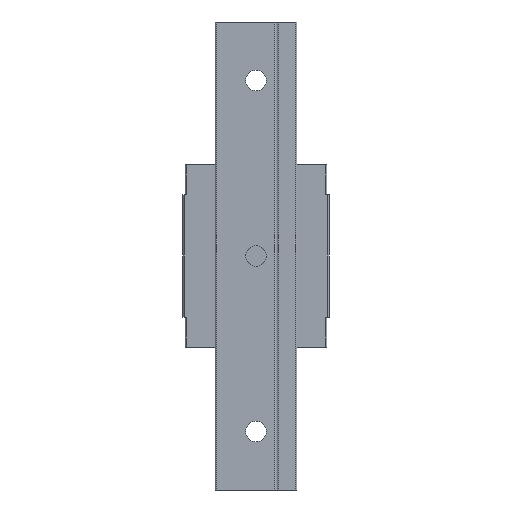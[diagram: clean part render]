
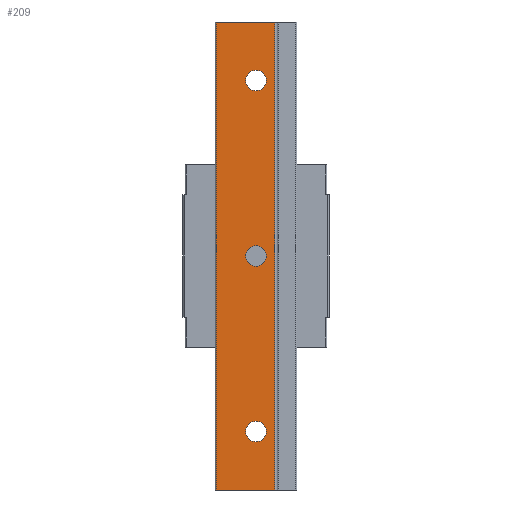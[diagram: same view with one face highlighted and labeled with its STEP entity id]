
A CAD part, front view. The second image highlights one B-rep face of the part: STEP entity #209.
In plain terms, the highlighted planar face has unit normal (0, -1, 0).
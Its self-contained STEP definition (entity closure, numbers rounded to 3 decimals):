
#26 = VERTEX_POINT ( 'NONE', #2491 ) ;
#63 = DIRECTION ( 'NONE',  ( 0., -1., 0. ) ) ;
#66 = DIRECTION ( 'NONE',  ( 0., 0., -1. ) ) ;
#106 = PLANE ( 'NONE',  #2392 ) ;
#139 = EDGE_CURVE ( 'NONE', #3542, #342, #4461, .T. ) ;
#209 = ADVANCED_FACE ( 'NONE', ( #1805, #403, #3886, #1785 ), #106, .F. ) ;
#254 = CARTESIAN_POINT ( 'NONE',  ( 3.2, 0., 40. ) ) ;
#272 = CARTESIAN_POINT ( 'NONE',  ( -6.8, 0., -40. ) ) ;
#299 = ORIENTED_EDGE ( 'NONE', *, *, #2235, .F. ) ;
#300 = CARTESIAN_POINT ( 'NONE',  ( 3.2, 0., -40. ) ) ;
#326 = CARTESIAN_POINT ( 'NONE',  ( -6.8, 0., 40. ) ) ;
#342 = VERTEX_POINT ( 'NONE', #300 ) ;
#349 = CARTESIAN_POINT ( 'NONE',  ( 0., 0., 30. ) ) ;
#397 = DIRECTION ( 'NONE',  ( -1., 0., 0. ) ) ;
#403 = FACE_BOUND ( 'NONE', #2926, .T. ) ;
#443 = CARTESIAN_POINT ( 'NONE',  ( 3.5, 0., -40. ) ) ;
#456 = AXIS2_PLACEMENT_3D ( 'NONE', #349, #1059, #2190 ) ;
#576 = VERTEX_POINT ( 'NONE', #272 ) ;
#688 = CIRCLE ( 'NONE', #2989, 1.75 ) ;
#779 = DIRECTION ( 'NONE',  ( 0., -1., 0. ) ) ;
#843 = EDGE_LOOP ( 'NONE', ( #3930, #1016, #1893, #2213 ) ) ;
#873 = EDGE_CURVE ( 'NONE', #1219, #2899, #3892, .T. ) ;
#1016 = ORIENTED_EDGE ( 'NONE', *, *, #2685, .F. ) ;
#1059 = DIRECTION ( 'NONE',  ( 0., -1., 0. ) ) ;
#1103 = CARTESIAN_POINT ( 'NONE',  ( 0., 0., 0. ) ) ;
#1106 = DIRECTION ( 'NONE',  ( 0., 0., -1. ) ) ;
#1147 = CARTESIAN_POINT ( 'NONE',  ( 0., 0., -31.75 ) ) ;
#1209 = CIRCLE ( 'NONE', #3802, 1.75 ) ;
#1219 = VERTEX_POINT ( 'NONE', #3480 ) ;
#1257 = CARTESIAN_POINT ( 'NONE',  ( -6.8, 0., 40. ) ) ;
#1279 = EDGE_CURVE ( 'NONE', #3439, #4396, #688, .T. ) ;
#1461 = ORIENTED_EDGE ( 'NONE', *, *, #2481, .F. ) ;
#1482 = DIRECTION ( 'NONE',  ( 0., -1., 0. ) ) ;
#1513 = VERTEX_POINT ( 'NONE', #2759 ) ;
#1619 = EDGE_LOOP ( 'NONE', ( #2354, #299 ) ) ;
#1686 = CARTESIAN_POINT ( 'NONE',  ( 0., 0., -28.25 ) ) ;
#1758 = VECTOR ( 'NONE', #3038, 1000. ) ;
#1780 = DIRECTION ( 'NONE',  ( 0., -1., 0. ) ) ;
#1785 = FACE_OUTER_BOUND ( 'NONE', #843, .T. ) ;
#1805 = FACE_BOUND ( 'NONE', #2846, .T. ) ;
#1829 = VECTOR ( 'NONE', #3939, 1000. ) ;
#1870 = DIRECTION ( 'NONE',  ( 0., 0., -1. ) ) ;
#1893 = ORIENTED_EDGE ( 'NONE', *, *, #3476, .F. ) ;
#1928 = CARTESIAN_POINT ( 'NONE',  ( 0., 0., -1.75 ) ) ;
#2008 = AXIS2_PLACEMENT_3D ( 'NONE', #1103, #63, #2842 ) ;
#2160 = DIRECTION ( 'NONE',  ( 0., 0., -1. ) ) ;
#2190 = DIRECTION ( 'NONE',  ( 0., 0., -1. ) ) ;
#2213 = ORIENTED_EDGE ( 'NONE', *, *, #139, .F. ) ;
#2235 = EDGE_CURVE ( 'NONE', #1513, #26, #1209, .T. ) ;
#2354 = ORIENTED_EDGE ( 'NONE', *, *, #3007, .F. ) ;
#2392 = AXIS2_PLACEMENT_3D ( 'NONE', #4280, #3554, #4227 ) ;
#2408 = CARTESIAN_POINT ( 'NONE',  ( 0., 0., -30. ) ) ;
#2435 = DIRECTION ( 'NONE',  ( 0., -1., 0. ) ) ;
#2481 = EDGE_CURVE ( 'NONE', #4396, #3439, #3871, .T. ) ;
#2491 = CARTESIAN_POINT ( 'NONE',  ( 0., 0., 28.25 ) ) ;
#2584 = CARTESIAN_POINT ( 'NONE',  ( 3.5, 0., 40. ) ) ;
#2667 = VECTOR ( 'NONE', #3060, 1000. ) ;
#2685 = EDGE_CURVE ( 'NONE', #576, #3530, #3342, .T. ) ;
#2759 = CARTESIAN_POINT ( 'NONE',  ( 0., 0., 31.75 ) ) ;
#2790 = CARTESIAN_POINT ( 'NONE',  ( 3.2, 0., 40. ) ) ;
#2842 = DIRECTION ( 'NONE',  ( 0., 0., -1. ) ) ;
#2846 = EDGE_LOOP ( 'NONE', ( #2917, #1461 ) ) ;
#2850 = CARTESIAN_POINT ( 'NONE',  ( 0., 0., 30. ) ) ;
#2867 = AXIS2_PLACEMENT_3D ( 'NONE', #2408, #2435, #1106 ) ;
#2899 = VERTEX_POINT ( 'NONE', #1928 ) ;
#2901 = LINE ( 'NONE', #2584, #1829 ) ;
#2917 = ORIENTED_EDGE ( 'NONE', *, *, #1279, .F. ) ;
#2926 = EDGE_LOOP ( 'NONE', ( #3917, #3686 ) ) ;
#2937 = CIRCLE ( 'NONE', #2008, 1.75 ) ;
#2989 = AXIS2_PLACEMENT_3D ( 'NONE', #3247, #1482, #1870 ) ;
#3007 = EDGE_CURVE ( 'NONE', #26, #1513, #4370, .T. ) ;
#3038 = DIRECTION ( 'NONE',  ( 0., 0., 1. ) ) ;
#3060 = DIRECTION ( 'NONE',  ( 0., 0., -1. ) ) ;
#3171 = AXIS2_PLACEMENT_3D ( 'NONE', #3488, #1780, #66 ) ;
#3247 = CARTESIAN_POINT ( 'NONE',  ( 0., 0., -30. ) ) ;
#3320 = EDGE_CURVE ( 'NONE', #3542, #3530, #2901, .T. ) ;
#3342 = LINE ( 'NONE', #326, #1758 ) ;
#3376 = EDGE_CURVE ( 'NONE', #2899, #1219, #2937, .T. ) ;
#3439 = VERTEX_POINT ( 'NONE', #1147 ) ;
#3476 = EDGE_CURVE ( 'NONE', #342, #576, #3881, .T. ) ;
#3480 = CARTESIAN_POINT ( 'NONE',  ( 0., 0., 1.75 ) ) ;
#3488 = CARTESIAN_POINT ( 'NONE',  ( 0., 0., 0. ) ) ;
#3530 = VERTEX_POINT ( 'NONE', #1257 ) ;
#3542 = VERTEX_POINT ( 'NONE', #254 ) ;
#3554 = DIRECTION ( 'NONE',  ( 0., 1., 0. ) ) ;
#3686 = ORIENTED_EDGE ( 'NONE', *, *, #873, .F. ) ;
#3802 = AXIS2_PLACEMENT_3D ( 'NONE', #2850, #779, #2160 ) ;
#3871 = CIRCLE ( 'NONE', #2867, 1.75 ) ;
#3881 = LINE ( 'NONE', #443, #4388 ) ;
#3886 = FACE_BOUND ( 'NONE', #1619, .T. ) ;
#3892 = CIRCLE ( 'NONE', #3171, 1.75 ) ;
#3917 = ORIENTED_EDGE ( 'NONE', *, *, #3376, .F. ) ;
#3930 = ORIENTED_EDGE ( 'NONE', *, *, #3320, .T. ) ;
#3939 = DIRECTION ( 'NONE',  ( -1., 0., 0. ) ) ;
#4227 = DIRECTION ( 'NONE',  ( 1., 0., 0. ) ) ;
#4280 = CARTESIAN_POINT ( 'NONE',  ( -7., 0., 40. ) ) ;
#4370 = CIRCLE ( 'NONE', #456, 1.75 ) ;
#4388 = VECTOR ( 'NONE', #397, 1000. ) ;
#4396 = VERTEX_POINT ( 'NONE', #1686 ) ;
#4461 = LINE ( 'NONE', #2790, #2667 ) ;
